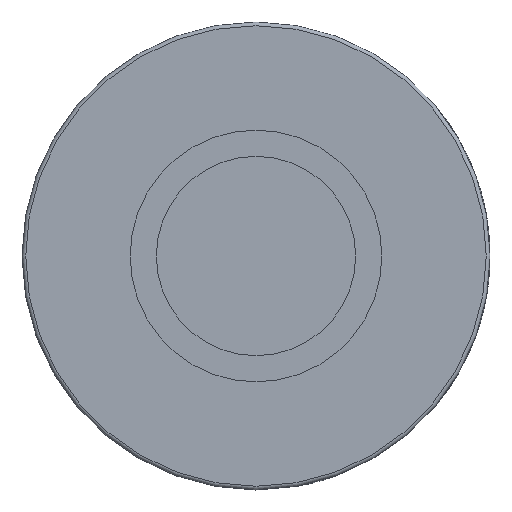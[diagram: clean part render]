
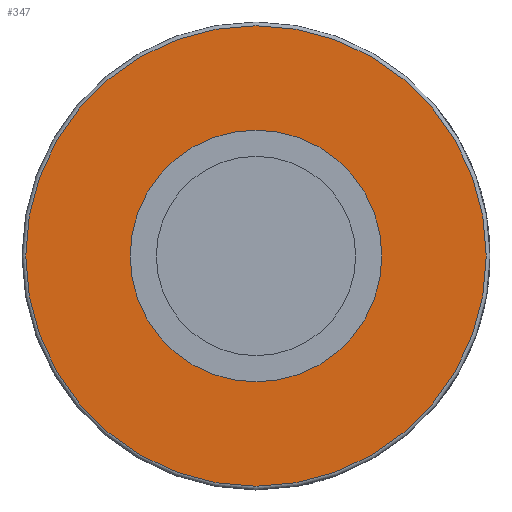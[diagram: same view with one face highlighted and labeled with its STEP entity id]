
A CAD part, left-side view. The second image highlights one B-rep face of the part: STEP entity #347.
In plain terms, the highlighted planar face has unit normal (-1, 0, 0).
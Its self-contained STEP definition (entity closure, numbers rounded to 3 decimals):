
#347 = ADVANCED_FACE( '', ( #843, #844 ), #845, .T. );
#843 = FACE_OUTER_BOUND( '', #1722, .T. );
#844 = FACE_BOUND( '', #1723, .T. );
#845 = PLANE( '', #1724 );
#1722 = EDGE_LOOP( '', ( #3355 ) );
#1723 = EDGE_LOOP( '', ( #3356 ) );
#1724 = AXIS2_PLACEMENT_3D( '', #3357, #3358, #3359 );
#3355 = ORIENTED_EDGE( '', *, *, #4892, .T. );
#3356 = ORIENTED_EDGE( '', *, *, #4907, .F. );
#3357 = CARTESIAN_POINT( '', ( 18.923, 0., 31.242 ) );
#3358 = DIRECTION( '', ( -1., 0., 0. ) );
#3359 = DIRECTION( '', ( 0., 0., 1. ) );
#4892 = EDGE_CURVE( '', #5802, #5802, #5803, .T. );
#4907 = EDGE_CURVE( '', #5827, #5827, #5828, .T. );
#5802 = VERTEX_POINT( '', #7371 );
#5803 = CIRCLE( '', #7372, 31.242 );
#5827 = VERTEX_POINT( '', #7412 );
#5828 = CIRCLE( '', #7413, 17.082 );
#7371 = CARTESIAN_POINT( '', ( 18.923, 0., 31.242 ) );
#7372 = AXIS2_PLACEMENT_3D( '', #8849, #8850, #8851 );
#7412 = CARTESIAN_POINT( '', ( 18.923, 0., 17.082 ) );
#7413 = AXIS2_PLACEMENT_3D( '', #8852, #8853, #8854 );
#8849 = CARTESIAN_POINT( '', ( 18.923, 0., 0. ) );
#8850 = DIRECTION( '', ( -1., 0., 0. ) );
#8851 = DIRECTION( '', ( 0., 0., 1. ) );
#8852 = CARTESIAN_POINT( '', ( 18.923, 0., 0. ) );
#8853 = DIRECTION( '', ( -1., 0., 0. ) );
#8854 = DIRECTION( '', ( 0., 0., 1. ) );
